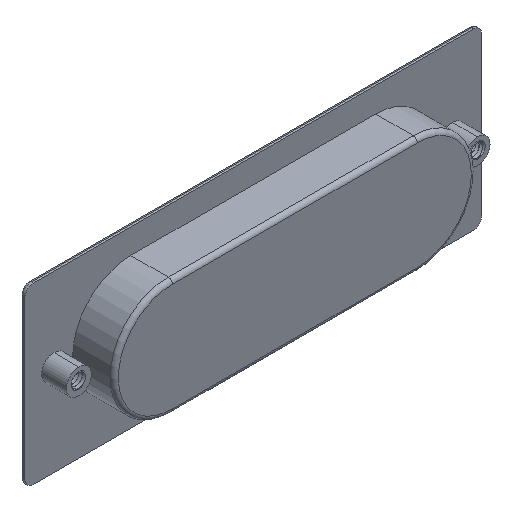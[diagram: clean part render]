
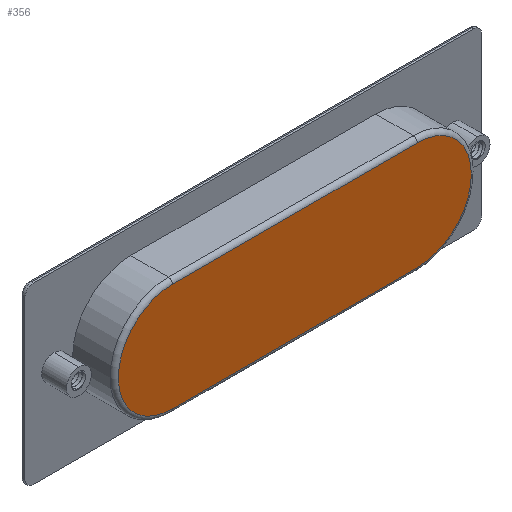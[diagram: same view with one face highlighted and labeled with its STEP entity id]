
A CAD part, isometric view. The second image highlights one B-rep face of the part: STEP entity #356.
In plain terms, the highlighted planar face has unit normal (0, -1, 0).
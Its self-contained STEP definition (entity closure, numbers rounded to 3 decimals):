
#206 = CARTESIAN_POINT ( 'NONE',  ( -29.5, -5., -13. ) ) ;
#332 = CIRCLE ( 'NONE', #4220, 13. ) ;
#356 = ADVANCED_FACE ( 'NONE', ( #880 ), #3895, .F. ) ;
#409 = VERTEX_POINT ( 'NONE', #2079 ) ;
#647 = LINE ( 'NONE', #206, #2619 ) ;
#678 = EDGE_CURVE ( 'NONE', #409, #3782, #3208, .T. ) ;
#774 = AXIS2_PLACEMENT_3D ( 'NONE', #3457, #3041, #2612 ) ;
#826 = ORIENTED_EDGE ( 'NONE', *, *, #2845, .T. ) ;
#880 = FACE_OUTER_BOUND ( 'NONE', #1163, .T. ) ;
#1163 = EDGE_LOOP ( 'NONE', ( #4182, #1665, #1533, #826 ) ) ;
#1231 = DIRECTION ( 'NONE',  ( 0., 0., 1. ) ) ;
#1508 = AXIS2_PLACEMENT_3D ( 'NONE', #2711, #2276, #1826 ) ;
#1533 = ORIENTED_EDGE ( 'NONE', *, *, #2743, .T. ) ;
#1665 = ORIENTED_EDGE ( 'NONE', *, *, #678, .T. ) ;
#1678 = DIRECTION ( 'NONE',  ( 0., -1., 0. ) ) ;
#1766 = VECTOR ( 'NONE', #2355, 1000. ) ;
#1826 = DIRECTION ( 'NONE',  ( 0., 0., 1. ) ) ;
#2079 = CARTESIAN_POINT ( 'NONE',  ( 29.5, -5., 13. ) ) ;
#2118 = CARTESIAN_POINT ( 'NONE',  ( 29.5, -5., 0. ) ) ;
#2276 = DIRECTION ( 'NONE',  ( 0., -1., 0. ) ) ;
#2355 = DIRECTION ( 'NONE',  ( -1., 0., 0. ) ) ;
#2468 = CARTESIAN_POINT ( 'NONE',  ( -29.5, -5., 13. ) ) ;
#2580 = EDGE_CURVE ( 'NONE', #3299, #409, #332, .T. ) ;
#2612 = DIRECTION ( 'NONE',  ( 0., 0., 1. ) ) ;
#2619 = VECTOR ( 'NONE', #4013, 1000. ) ;
#2643 = CIRCLE ( 'NONE', #1508, 13. ) ;
#2711 = CARTESIAN_POINT ( 'NONE',  ( -29.5, -5., 0. ) ) ;
#2743 = EDGE_CURVE ( 'NONE', #3782, #3777, #2643, .T. ) ;
#2784 = CARTESIAN_POINT ( 'NONE',  ( -29.5, -5., 13. ) ) ;
#2845 = EDGE_CURVE ( 'NONE', #3777, #3299, #647, .T. ) ;
#3041 = DIRECTION ( 'NONE',  ( 0., 1., 0. ) ) ;
#3208 = LINE ( 'NONE', #2784, #1766 ) ;
#3299 = VERTEX_POINT ( 'NONE', #3405 ) ;
#3405 = CARTESIAN_POINT ( 'NONE',  ( 29.5, -5., -13. ) ) ;
#3457 = CARTESIAN_POINT ( 'NONE',  ( -29.5, -5., 0. ) ) ;
#3757 = CARTESIAN_POINT ( 'NONE',  ( -29.5, -5., -13. ) ) ;
#3777 = VERTEX_POINT ( 'NONE', #3757 ) ;
#3782 = VERTEX_POINT ( 'NONE', #2468 ) ;
#3895 = PLANE ( 'NONE',  #774 ) ;
#4013 = DIRECTION ( 'NONE',  ( 1., 0., 0. ) ) ;
#4182 = ORIENTED_EDGE ( 'NONE', *, *, #2580, .T. ) ;
#4220 = AXIS2_PLACEMENT_3D ( 'NONE', #2118, #1678, #1231 ) ;
